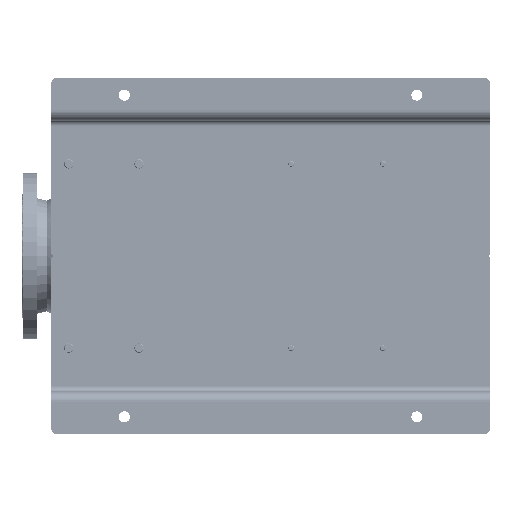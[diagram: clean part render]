
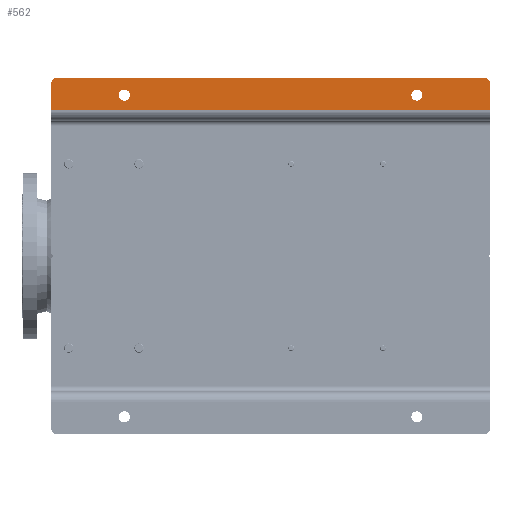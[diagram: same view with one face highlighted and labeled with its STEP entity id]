
A CAD part, front view. The second image highlights one B-rep face of the part: STEP entity #562.
In plain terms, the highlighted planar face has unit normal (0, -1, 0).
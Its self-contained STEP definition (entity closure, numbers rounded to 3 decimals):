
#562 = ADVANCED_FACE ( 'NONE', ( #59875, #77424, #164238 ), #168089, .T. ) ;
#637 = DIRECTION ( 'NONE',  ( 0., 1., 0. ) ) ;
#1212 = EDGE_LOOP ( 'NONE', ( #97967, #76658, #169775, #132436, #177803, #173449 ) ) ;
#8288 = DIRECTION ( 'NONE',  ( 0., -1., 0. ) ) ;
#9260 = CARTESIAN_POINT ( 'NONE',  ( 600., 0., -10. ) ) ;
#9387 = CARTESIAN_POINT ( 'NONE',  ( 600., 0., 0. ) ) ;
#10384 = CARTESIAN_POINT ( 'NONE',  ( 537., 0., 0. ) ) ;
#12313 = DIRECTION ( 'NONE',  ( 1., 0., 0. ) ) ;
#12379 = AXIS2_PLACEMENT_3D ( 'NONE', #96912, #22730, #184652 ) ;
#12450 = CIRCLE ( 'NONE', #96563, 9.5 ) ;
#13259 = LINE ( 'NONE', #10384, #25102 ) ;
#13647 = EDGE_CURVE ( 'NONE', #145826, #65027, #85195, .T. ) ;
#16404 = CIRCLE ( 'NONE', #116169, 9.5 ) ;
#17605 = LINE ( 'NONE', #77160, #21539 ) ;
#19498 = VERTEX_POINT ( 'NONE', #125458 ) ;
#19530 = DIRECTION ( 'NONE',  ( 0., 1., 0. ) ) ;
#21539 = VECTOR ( 'NONE', #89873, 1000. ) ;
#22730 = DIRECTION ( 'NONE',  ( 0., 1., 0. ) ) ;
#25102 = VECTOR ( 'NONE', #12313, 1000. ) ;
#27234 = DIRECTION ( 'NONE',  ( 1., 0., 0. ) ) ;
#30480 = EDGE_LOOP ( 'NONE', ( #92021, #66679 ) ) ;
#30905 = CIRCLE ( 'NONE', #46507, 10. ) ;
#33692 = EDGE_CURVE ( 'NONE', #98263, #125292, #150921, .T. ) ;
#35117 = DIRECTION ( 'NONE',  ( 0., 0., -1. ) ) ;
#38917 = ORIENTED_EDGE ( 'NONE', *, *, #192892, .T. ) ;
#41162 = EDGE_CURVE ( 'NONE', #125292, #98263, #12450, .T. ) ;
#42789 = EDGE_CURVE ( 'NONE', #59013, #65027, #13259, .T. ) ;
#43821 = EDGE_CURVE ( 'NONE', #70998, #111005, #30905, .T. ) ;
#44194 = DIRECTION ( 'NONE',  ( 0., 1., 0. ) ) ;
#45094 = VERTEX_POINT ( 'NONE', #185628 ) ;
#46507 = AXIS2_PLACEMENT_3D ( 'NONE', #96817, #69454, #141612 ) ;
#47091 = DIRECTION ( 'NONE',  ( 0., 0., -1. ) ) ;
#49809 = CIRCLE ( 'NONE', #12379, 9.5 ) ;
#51450 = CARTESIAN_POINT ( 'NONE',  ( 570.5, 0., -125. ) ) ;
#51665 = CARTESIAN_POINT ( 'NONE',  ( 580., 0., -625. ) ) ;
#53103 = EDGE_CURVE ( 'NONE', #111005, #145826, #17605, .T. ) ;
#55541 = LINE ( 'NONE', #145247, #103971 ) ;
#58558 = EDGE_CURVE ( 'NONE', #59013, #19498, #191500, .T. ) ;
#59013 = VERTEX_POINT ( 'NONE', #192118 ) ;
#59327 = VERTEX_POINT ( 'NONE', #51450 ) ;
#59875 = FACE_BOUND ( 'NONE', #186222, .T. ) ;
#63470 = ORIENTED_EDGE ( 'NONE', *, *, #114505, .T. ) ;
#65027 = VERTEX_POINT ( 'NONE', #9387 ) ;
#66120 = CARTESIAN_POINT ( 'NONE',  ( 570.5, 0., -625. ) ) ;
#66679 = ORIENTED_EDGE ( 'NONE', *, *, #33692, .T. ) ;
#67805 = DIRECTION ( 'NONE',  ( 0., 0., -1. ) ) ;
#69454 = DIRECTION ( 'NONE',  ( 0., -1., 0. ) ) ;
#70998 = VERTEX_POINT ( 'NONE', #150934 ) ;
#74785 = CARTESIAN_POINT ( 'NONE',  ( 580., 0., -125. ) ) ;
#76658 = ORIENTED_EDGE ( 'NONE', *, *, #58558, .T. ) ;
#77160 = CARTESIAN_POINT ( 'NONE',  ( 610., 0., -750. ) ) ;
#77424 = FACE_BOUND ( 'NONE', #30480, .T. ) ;
#78398 = DIRECTION ( 'NONE',  ( 0., -1., 0. ) ) ;
#85195 = CIRCLE ( 'NONE', #103840, 10. ) ;
#88296 = AXIS2_PLACEMENT_3D ( 'NONE', #136916, #78398, #119382 ) ;
#89873 = DIRECTION ( 'NONE',  ( 0., 0., 1. ) ) ;
#90771 = CARTESIAN_POINT ( 'NONE',  ( 610., 0., -740. ) ) ;
#92021 = ORIENTED_EDGE ( 'NONE', *, *, #41162, .T. ) ;
#96563 = AXIS2_PLACEMENT_3D ( 'NONE', #51665, #19530, #35117 ) ;
#96817 = CARTESIAN_POINT ( 'NONE',  ( 600., 0., -740. ) ) ;
#96912 = CARTESIAN_POINT ( 'NONE',  ( 580., 0., -125. ) ) ;
#97967 = ORIENTED_EDGE ( 'NONE', *, *, #42789, .F. ) ;
#98263 = VERTEX_POINT ( 'NONE', #178130 ) ;
#103840 = AXIS2_PLACEMENT_3D ( 'NONE', #9260, #8288, #67805 ) ;
#103971 = VECTOR ( 'NONE', #27234, 1000. ) ;
#111005 = VERTEX_POINT ( 'NONE', #90771 ) ;
#114505 = EDGE_CURVE ( 'NONE', #45094, #59327, #16404, .T. ) ;
#116169 = AXIS2_PLACEMENT_3D ( 'NONE', #74785, #637, #119625 ) ;
#119382 = DIRECTION ( 'NONE',  ( 0., 0., -1. ) ) ;
#119625 = DIRECTION ( 'NONE',  ( 0., 0., -1. ) ) ;
#125292 = VERTEX_POINT ( 'NONE', #66120 ) ;
#125458 = CARTESIAN_POINT ( 'NONE',  ( 555., 0., -750. ) ) ;
#132025 = CARTESIAN_POINT ( 'NONE',  ( 555., 0., -750. ) ) ;
#132436 = ORIENTED_EDGE ( 'NONE', *, *, #43821, .T. ) ;
#136916 = CARTESIAN_POINT ( 'NONE',  ( 537., 0., -750. ) ) ;
#141612 = DIRECTION ( 'NONE',  ( 0., 0., -1. ) ) ;
#145247 = CARTESIAN_POINT ( 'NONE',  ( 537., 0., -750. ) ) ;
#145826 = VERTEX_POINT ( 'NONE', #175670 ) ;
#150921 = CIRCLE ( 'NONE', #170032, 9.5 ) ;
#150934 = CARTESIAN_POINT ( 'NONE',  ( 600., 0., -750. ) ) ;
#163180 = DIRECTION ( 'NONE',  ( 0., 0., -1. ) ) ;
#164238 = FACE_OUTER_BOUND ( 'NONE', #1212, .T. ) ;
#165805 = EDGE_CURVE ( 'NONE', #19498, #70998, #55541, .T. ) ;
#168089 = PLANE ( 'NONE',  #88296 ) ;
#169775 = ORIENTED_EDGE ( 'NONE', *, *, #165805, .T. ) ;
#170032 = AXIS2_PLACEMENT_3D ( 'NONE', #177823, #44194, #163180 ) ;
#170279 = VECTOR ( 'NONE', #47091, 1000. ) ;
#173449 = ORIENTED_EDGE ( 'NONE', *, *, #13647, .T. ) ;
#175670 = CARTESIAN_POINT ( 'NONE',  ( 610., 0., -10. ) ) ;
#177803 = ORIENTED_EDGE ( 'NONE', *, *, #53103, .T. ) ;
#177823 = CARTESIAN_POINT ( 'NONE',  ( 580., 0., -625. ) ) ;
#178130 = CARTESIAN_POINT ( 'NONE',  ( 589.5, 0., -625. ) ) ;
#184652 = DIRECTION ( 'NONE',  ( 0., 0., -1. ) ) ;
#185628 = CARTESIAN_POINT ( 'NONE',  ( 589.5, 0., -125. ) ) ;
#186222 = EDGE_LOOP ( 'NONE', ( #38917, #63470 ) ) ;
#191500 = LINE ( 'NONE', #132025, #170279 ) ;
#192118 = CARTESIAN_POINT ( 'NONE',  ( 555., 0., 0. ) ) ;
#192892 = EDGE_CURVE ( 'NONE', #59327, #45094, #49809, .T. ) ;
